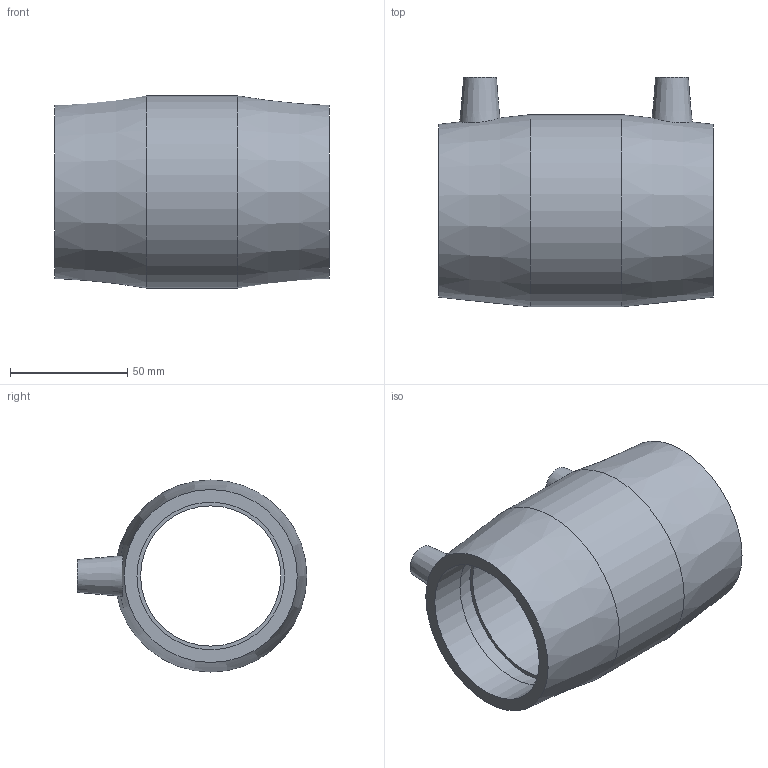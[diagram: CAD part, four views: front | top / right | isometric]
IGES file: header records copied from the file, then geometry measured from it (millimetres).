
Global section: file name: 490104063.ipt; native system: Autodesk Inventor 2015; preprocessor: unknown; author: KIM; date: 20171106.093545; units: millimetre
Bounding box: 117 x 98 x 82 mm (x, y, z)
Volume: 216977 mm3; surface area: 58937.7 mm2
Topology: 1 solids, 1 shells, 28 faces, 64 edges, 46 vertices
Faces by surface type: plane 12, revolution 9, cone 4, cylinder 3
Full cylindrical faces by diameter (mm): 4 x2, 82 x1
